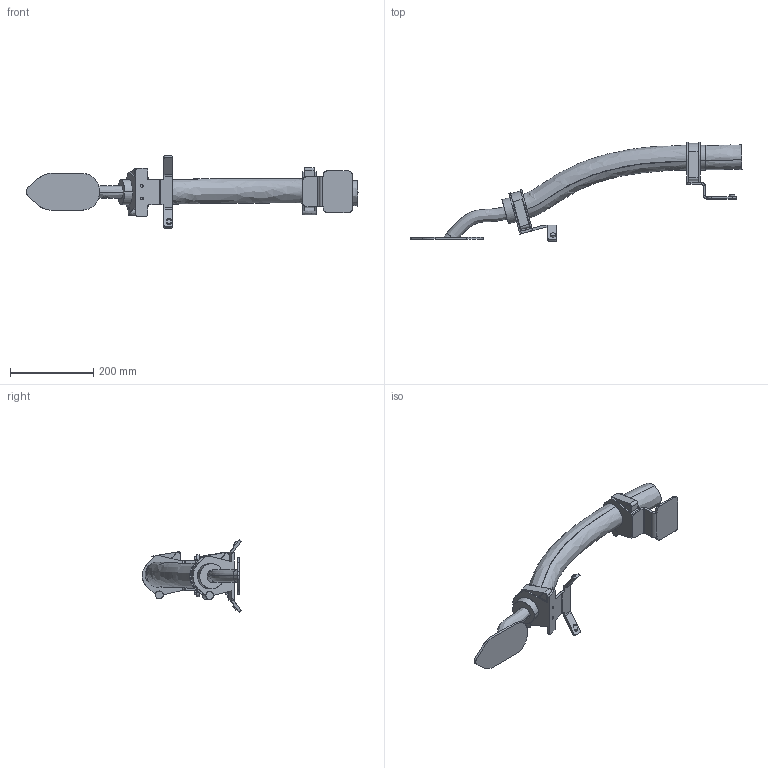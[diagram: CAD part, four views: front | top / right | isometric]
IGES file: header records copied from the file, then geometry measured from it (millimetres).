
Start section: SolidWorks IGES file using analytic representation for surfaces
Global section: file name: C:\DATA\SAP_DOC\LW\IRB 6730S\IRB6730S-MH3_270kg-310_OC_01_SW_J\export\IRB6730S-MH3_270kg-310_OC_01_IGES_J\IRB6730S-MH3_270kg-310-OC_00_LINK04_CABLE.igs; native system: SolidWorks 2024; preprocessor: SolidWorks 2024; author: SEJOVAS3; date: 260526.131520; units: millimetre
Bounding box: 796.5 x 238.26 x 174.65 mm (x, y, z)
Surface area: 245839.2 mm2 (no closed solid volume)
Topology: 0 solids, 0 shells, 263 faces, 3582 edges, 3582 vertices
Faces by surface type: bspline 184, revolution 79
